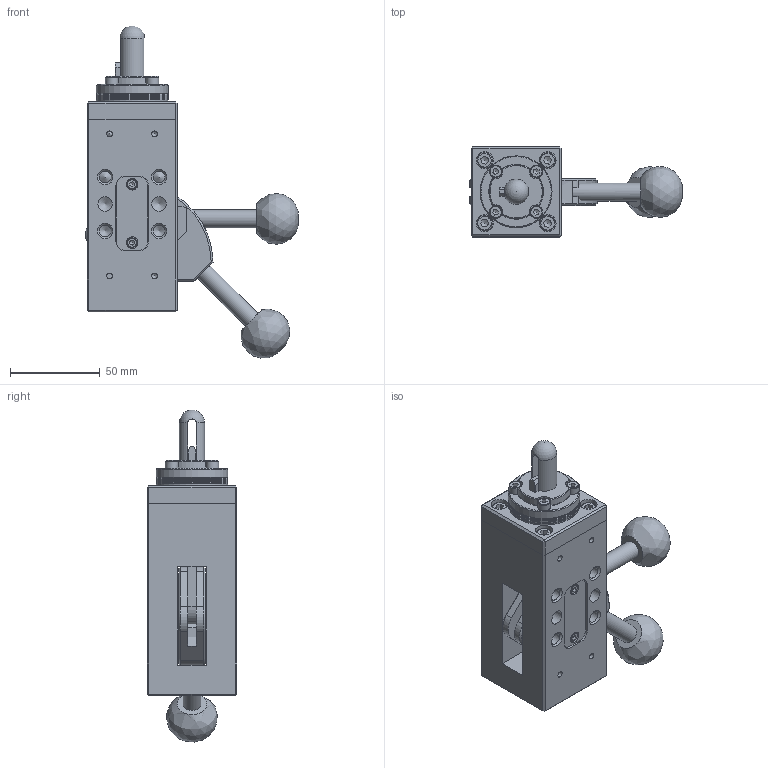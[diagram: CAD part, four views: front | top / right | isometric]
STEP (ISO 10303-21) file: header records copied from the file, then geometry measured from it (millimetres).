
FILE_DESCRIPTION(/* description */ (''),/* implementation_level */ '2;1');
FILE_NAME(/* name */ 'S:\Tom\INVENTOR FILES\AUTOMOTIVE\UNDERBODY CLAMPS\XPCB\SIMPLIFIED MODELS\STEP\XPCB-14-01-NS.stp',/* time_stamp */ '2021-06-08T10:04:25+01:00',/* author */ ('RWilson'),/* organization */ (''),/* preprocessor_version */ 'ST-DEVELOPER v18.1',/* originating_system */ 'Autodesk Inventor 2021',/* authorisation */ '');
FILE_SCHEMA (('AUTOMOTIVE_DESIGN { 1 0 10303 214 3 1 1 }'));
Length unit declared in the file: millimetre
Products named in the file (9): XPCB-14-01; XPCB - BODY; XPCB - HANDLE; XPCB - TOP PLATE; XPCB - 1MM SHIM; XPCB - 0.5MM SHIM; XPCB - 14MM CLAMPING RING & PIN; XPCB - 14MM HOOK; XPCB - BLANKING COVER
Assembly tree (13 placements, depth 2):
  XPCB-14-01
    XPCB - BODY
    XPCB - HANDLE  x2
    XPCB - TOP PLATE
    XPCB - 0.5MM SHIM  x2
    XPCB - 1MM SHIM  x3
    XPCB - 14MM CLAMPING RING & PIN
    XPCB - 14MM HOOK
    XPCB - BLANKING COVER  x2
Bounding box: 118.38 x 50 x 184.64 mm (x, y, z)
Volume: 335801.6 mm3; surface area: 101697.4 mm2
Topology: 13 solids, 23 shells, 545 faces, 1446 edges, 970 vertices
Faces by surface type: plane 260, cylinder 156, cone 106, torus 20, bspline 2, sphere 1
Full cylindrical faces by diameter (mm): 2.459 x4, 3 x8, 3.2 x4, 3.242 x8, 4.917 x3, 5.5 x4, 6 x3, 6.5 x4, 6.6 x3, 6.647 x12, 7 x4, 8 x6, 8.376 x2, 8.5 x4, 9.5 x4, 10 x5, 40 x6
Entity records: 13921 total; most frequent: CARTESIAN_POINT 2795, DIRECTION 2346, ORIENTED_EDGE 2218, EDGE_CURVE 1109, AXIS2_PLACEMENT_3D 902, VERTEX_POINT 776, LINE 542, VECTOR 542
